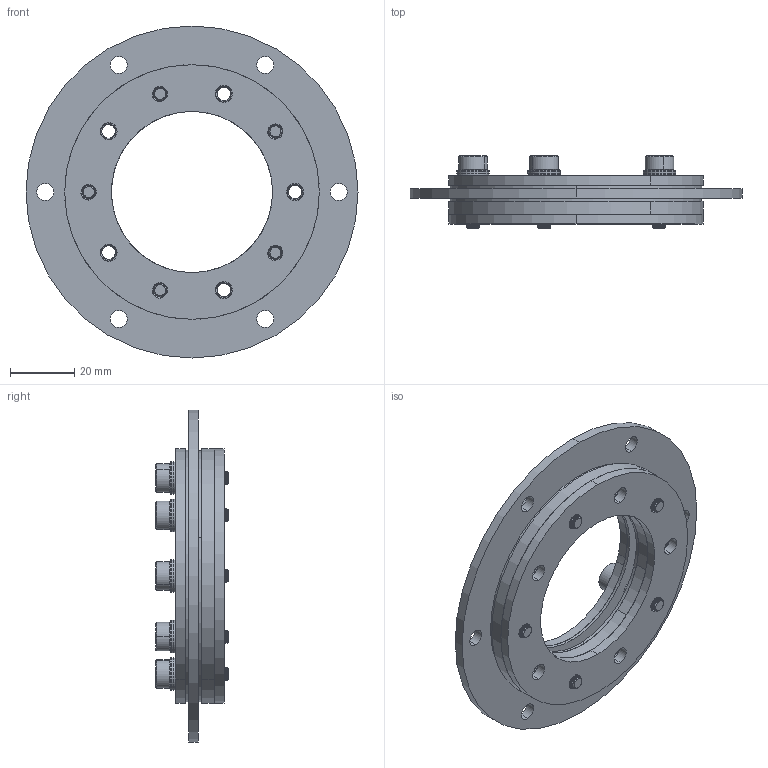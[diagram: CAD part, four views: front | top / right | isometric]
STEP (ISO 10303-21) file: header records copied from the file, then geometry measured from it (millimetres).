
FILE_DESCRIPTION (( 'STEP AP203' ), '1' );
FILE_NAME ('XG11-013-4.STEP', '2025-04-16T02:50:53', ( '微软用户' ), ( '微软中国' ), 'SwSTEP 2.0', 'SolidWorks 2024', '' );
FILE_SCHEMA (( 'CONFIG_CONTROL_DESIGN' ));
Length unit declared in the file: millimetre
Products named in the file (1): XG11-013-4
Bounding box: 103 x 22.5 x 103 mm (x, y, z)
Volume: 48753.7 mm3; surface area: 49936.6 mm2
Topology: 31 solids, 31 shells, 929 faces, 2395 edges, 1525 vertices
Faces by surface type: cylinder 450, cone 225, plane 193, bspline 61
Entity records: 71044 total; most frequent: CARTESIAN_POINT 49133, ORIENTED_EDGE 4790, DIRECTION 4070, EDGE_CURVE 2395, VERTEX_POINT 1525, AXIS2_PLACEMENT_3D 1513, EDGE_LOOP 1090, LINE 1044
